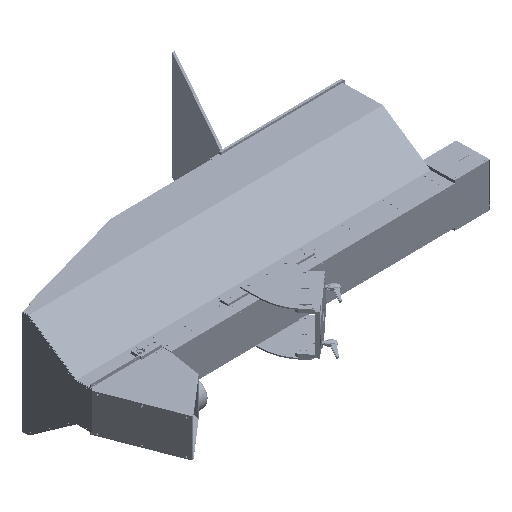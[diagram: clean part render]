
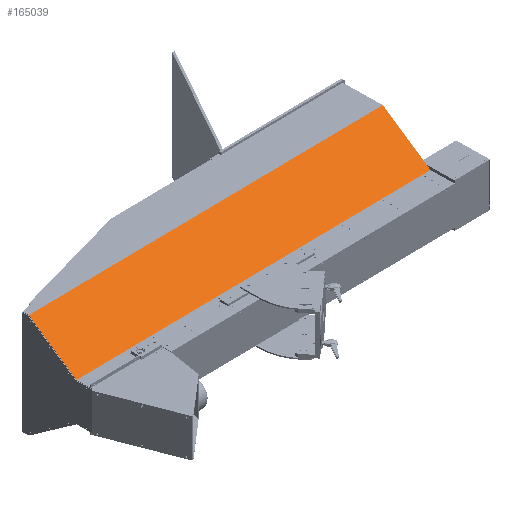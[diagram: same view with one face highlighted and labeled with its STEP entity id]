
A CAD part, isometric view. The second image highlights one B-rep face of the part: STEP entity #165039.
In plain terms, the highlighted planar face has unit normal (0.008, -0.574, 0.819).
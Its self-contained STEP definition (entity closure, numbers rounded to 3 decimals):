
#11340 = CARTESIAN_POINT ( 'NONE',  ( 1558.318, 282.023, 984.1 ) ) ;
#25103 = EDGE_CURVE ( 'NONE', #144282, #125031, #179715, .T. ) ;
#38229 = CARTESIAN_POINT ( 'NONE',  ( 1561.39, 56.396, 826.1 ) ) ;
#49797 = VECTOR ( 'NONE', #84376, 1000. ) ;
#59089 = EDGE_LOOP ( 'NONE', ( #125558, #117537, #141958, #72938 ) ) ;
#65501 = DIRECTION ( 'NONE',  ( 1., 0.014, 0. ) ) ;
#70976 = VERTEX_POINT ( 'NONE', #38229 ) ;
#72938 = ORIENTED_EDGE ( 'NONE', *, *, #164561, .T. ) ;
#74257 = VECTOR ( 'NONE', #225373, 1000. ) ;
#76754 = VERTEX_POINT ( 'NONE', #11340 ) ;
#84376 = DIRECTION ( 'NONE',  ( -0.011, 0.819, 0.574 ) ) ;
#89322 = FACE_OUTER_BOUND ( 'NONE', #59089, .T. ) ;
#95044 = DIRECTION ( 'NONE',  ( 0.011, -0.819, -0.574 ) ) ;
#102880 = CARTESIAN_POINT ( 'NONE',  ( 1558.318, 282.023, 984.1 ) ) ;
#107831 = DIRECTION ( 'NONE',  ( 0.008, -0.574, 0.819 ) ) ;
#117537 = ORIENTED_EDGE ( 'NONE', *, *, #153632, .F. ) ;
#121374 = LINE ( 'NONE', #102880, #49797 ) ;
#121793 = CARTESIAN_POINT ( 'NONE',  ( -159.987, 145.796, 905.1 ) ) ;
#125031 = VERTEX_POINT ( 'NONE', #129672 ) ;
#125558 = ORIENTED_EDGE ( 'NONE', *, *, #169277, .T. ) ;
#129672 = CARTESIAN_POINT ( 'NONE',  ( -158.451, 32.983, 826.1 ) ) ;
#137159 = CARTESIAN_POINT ( 'NONE',  ( -158.451, 32.983, 826.1 ) ) ;
#140295 = DIRECTION ( 'NONE',  ( -1., -0.014, 0. ) ) ;
#141958 = ORIENTED_EDGE ( 'NONE', *, *, #25103, .T. ) ;
#144282 = VERTEX_POINT ( 'NONE', #151027 ) ;
#144698 = AXIS2_PLACEMENT_3D ( 'NONE', #121793, #107831, #140295 ) ;
#151027 = CARTESIAN_POINT ( 'NONE',  ( -161.522, 258.609, 984.1 ) ) ;
#153632 = EDGE_CURVE ( 'NONE', #144282, #76754, #169810, .T. ) ;
#159999 = PLANE ( 'NONE',  #144698 ) ;
#164561 = EDGE_CURVE ( 'NONE', #125031, #70976, #208007, .T. ) ;
#165039 = ADVANCED_FACE ( 'NONE', ( #89322 ), #159999, .T. ) ;
#169277 = EDGE_CURVE ( 'NONE', #70976, #76754, #121374, .T. ) ;
#169810 = LINE ( 'NONE', #205835, #175545 ) ;
#175545 = VECTOR ( 'NONE', #65501, 1000. ) ;
#179715 = LINE ( 'NONE', #183190, #204136 ) ;
#183190 = CARTESIAN_POINT ( 'NONE',  ( -161.522, 258.609, 984.1 ) ) ;
#204136 = VECTOR ( 'NONE', #95044, 1000. ) ;
#205835 = CARTESIAN_POINT ( 'NONE',  ( -161.522, 258.609, 984.1 ) ) ;
#208007 = LINE ( 'NONE', #137159, #74257 ) ;
#225373 = DIRECTION ( 'NONE',  ( 1., 0.014, 0. ) ) ;
